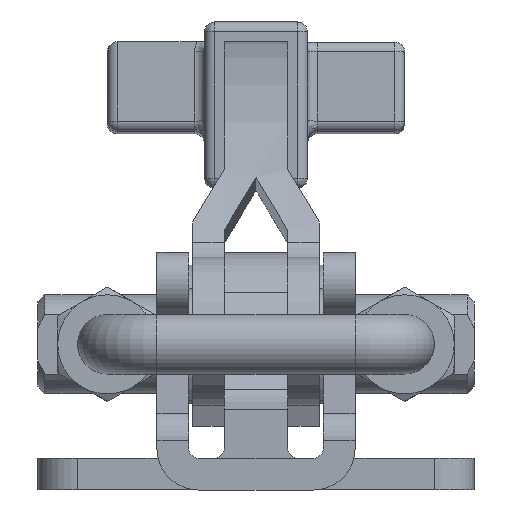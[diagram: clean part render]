
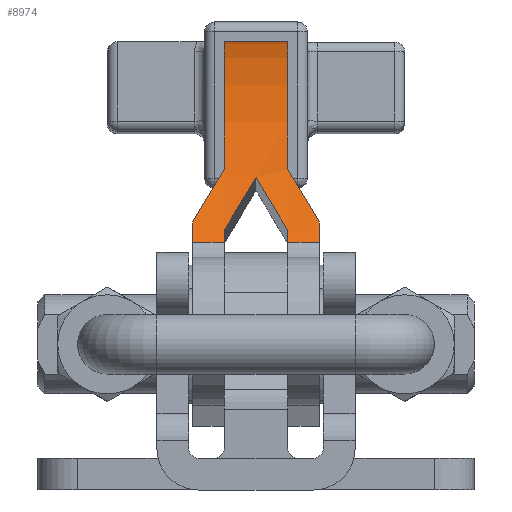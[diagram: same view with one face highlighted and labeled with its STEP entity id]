
A CAD part, front view. The second image highlights one B-rep face of the part: STEP entity #8974.
In plain terms, the highlighted cylindrical face has radius 50 mm (diameter 100 mm), a partial arc.
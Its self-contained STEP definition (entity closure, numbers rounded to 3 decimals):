
#8280=CARTESIAN_POINT('Control Point',(-3.2,23.271,26.219)) ;
#8281=CARTESIAN_POINT('Control Point',(-2.072,24.753,28.105)) ;
#8282=CARTESIAN_POINT('Control Point',(-1.001,26.371,29.884)) ;
#8283=CARTESIAN_POINT('Control Point',(0.,28.109,31.538)) ;
#8284=CARTESIAN_POINT('Cartesian Point',(-3.2,23.271,26.219)) ;
#8286=CARTESIAN_POINT('Cartesian Point',(0.,28.109,31.538)) ;
#8329=CARTESIAN_POINT('Axis2P3D Location',(-3.2,62.585,-4.674)) ;
#8333=CARTESIAN_POINT('Cartesian Point',(-3.2,22.335,24.989)) ;
#8428=CARTESIAN_POINT('Axis2P3D Location',(-6.4,62.585,-4.674)) ;
#8432=CARTESIAN_POINT('Cartesian Point',(-6.4,23.935,27.046)) ;
#8434=CARTESIAN_POINT('Cartesian Point',(-6.4,22.335,24.989)) ;
#8537=CARTESIAN_POINT('Control Point',(-6.4,23.935,27.046)) ;
#8538=CARTESIAN_POINT('Control Point',(-5.268,25.486,28.936)) ;
#8539=CARTESIAN_POINT('Control Point',(-4.197,27.177,30.712)) ;
#8540=CARTESIAN_POINT('Control Point',(-3.2,28.988,32.355)) ;
#8541=CARTESIAN_POINT('Cartesian Point',(-3.2,28.988,32.355)) ;
#8577=CARTESIAN_POINT('Axis2P3D Location',(-3.2,62.585,-4.674)) ;
#8581=CARTESIAN_POINT('Cartesian Point',(-3.2,64.949,45.27)) ;
#8616=CARTESIAN_POINT('Axis2P3D Location',(3.2,62.585,-4.674)) ;
#8620=CARTESIAN_POINT('Cartesian Point',(3.2,64.949,45.27)) ;
#8622=CARTESIAN_POINT('Cartesian Point',(3.2,28.988,32.355)) ;
#8665=CARTESIAN_POINT('Control Point',(6.4,23.935,27.046)) ;
#8666=CARTESIAN_POINT('Control Point',(5.268,25.486,28.936)) ;
#8667=CARTESIAN_POINT('Control Point',(4.197,27.177,30.712)) ;
#8668=CARTESIAN_POINT('Control Point',(3.2,28.988,32.355)) ;
#8669=CARTESIAN_POINT('Cartesian Point',(6.4,23.935,27.046)) ;
#8705=CARTESIAN_POINT('Axis2P3D Location',(6.4,62.585,-4.674)) ;
#8709=CARTESIAN_POINT('Cartesian Point',(6.4,22.335,24.989)) ;
#8804=CARTESIAN_POINT('Axis2P3D Location',(3.2,62.585,-4.674)) ;
#8808=CARTESIAN_POINT('Cartesian Point',(3.2,23.271,26.219)) ;
#8810=CARTESIAN_POINT('Cartesian Point',(3.2,22.335,24.989)) ;
#8913=CARTESIAN_POINT('Control Point',(3.2,23.271,26.219)) ;
#8914=CARTESIAN_POINT('Control Point',(2.072,24.753,28.105)) ;
#8915=CARTESIAN_POINT('Control Point',(1.001,26.371,29.884)) ;
#8916=CARTESIAN_POINT('Control Point',(0.,28.109,31.538)) ;
#8939=CARTESIAN_POINT('Axis2P3D Location',(7.,62.585,-4.674)) ;
#8944=CARTESIAN_POINT('Line Origine',(0.,22.335,24.989)) ;
#8949=CARTESIAN_POINT('Line Origine',(0.,64.949,45.27)) ;
#8954=CARTESIAN_POINT('Line Origine',(0.,22.335,24.989)) ;
#8330=DIRECTION('Axis2P3D Direction',(1.,0.,0.)) ;
#8429=DIRECTION('Axis2P3D Direction',(1.,0.,0.)) ;
#8578=DIRECTION('Axis2P3D Direction',(1.,0.,0.)) ;
#8617=DIRECTION('Axis2P3D Direction',(1.,0.,0.)) ;
#8706=DIRECTION('Axis2P3D Direction',(1.,0.,0.)) ;
#8805=DIRECTION('Axis2P3D Direction',(1.,0.,0.)) ;
#8940=DIRECTION('Axis2P3D Direction',(-1.,0.,0.)) ;
#8941=DIRECTION('Axis2P3D XDirection',(0.,-0.805,0.593)) ;
#8945=DIRECTION('Vector Direction',(-1.,0.,0.)) ;
#8950=DIRECTION('Vector Direction',(-1.,0.,0.)) ;
#8955=DIRECTION('Vector Direction',(-1.,0.,0.)) ;
#8331=AXIS2_PLACEMENT_3D('Circle Axis2P3D',#8329,#8330,$) ;
#8430=AXIS2_PLACEMENT_3D('Circle Axis2P3D',#8428,#8429,$) ;
#8579=AXIS2_PLACEMENT_3D('Circle Axis2P3D',#8577,#8578,$) ;
#8618=AXIS2_PLACEMENT_3D('Circle Axis2P3D',#8616,#8617,$) ;
#8707=AXIS2_PLACEMENT_3D('Circle Axis2P3D',#8705,#8706,$) ;
#8806=AXIS2_PLACEMENT_3D('Circle Axis2P3D',#8804,#8805,$) ;
#8942=AXIS2_PLACEMENT_3D('Cylinder Axis2P3D',#8939,#8940,#8941) ;
#8960=ORIENTED_EDGE('Oriented Edge',*,*,#8288,.T.) ;
#8961=ORIENTED_EDGE('Oriented Edge',*,*,#8917,.F.) ;
#8962=ORIENTED_EDGE('Oriented Edge',*,*,#8812,.T.) ;
#8963=ORIENTED_EDGE('Oriented Edge',*,*,#8948,.F.) ;
#8964=ORIENTED_EDGE('Oriented Edge',*,*,#8711,.F.) ;
#8965=ORIENTED_EDGE('Oriented Edge',*,*,#8671,.T.) ;
#8966=ORIENTED_EDGE('Oriented Edge',*,*,#8624,.F.) ;
#8967=ORIENTED_EDGE('Oriented Edge',*,*,#8953,.T.) ;
#8968=ORIENTED_EDGE('Oriented Edge',*,*,#8583,.T.) ;
#8969=ORIENTED_EDGE('Oriented Edge',*,*,#8543,.F.) ;
#8970=ORIENTED_EDGE('Oriented Edge',*,*,#8436,.T.) ;
#8971=ORIENTED_EDGE('Oriented Edge',*,*,#8958,.F.) ;
#8972=ORIENTED_EDGE('Oriented Edge',*,*,#8335,.F.) ;
#8946=VECTOR('Line Direction',#8945,1.) ;
#8951=VECTOR('Line Direction',#8950,1.) ;
#8956=VECTOR('Line Direction',#8955,1.) ;
#8974=ADVANCED_FACE('',(#8973),#8943,.T.) ;
#8279=B_SPLINE_CURVE_WITH_KNOTS('BSpline Curve',3,(#8280,#8281,#8282,#8283),.UNSPECIFIED.,.F.,.U.,(4,4),(407.171,418.164),.UNSPECIFIED.) ;
#8536=B_SPLINE_CURVE_WITH_KNOTS('BSpline Curve',3,(#8537,#8538,#8539,#8540),.UNSPECIFIED.,.F.,.U.,(4,4),(408.791,419.997),.UNSPECIFIED.) ;
#8664=B_SPLINE_CURVE_WITH_KNOTS('BSpline Curve',3,(#8665,#8666,#8667,#8668),.UNSPECIFIED.,.F.,.U.,(4,4),(168.848,180.054),.UNSPECIFIED.) ;
#8912=B_SPLINE_CURVE_WITH_KNOTS('BSpline Curve',3,(#8913,#8914,#8915,#8916),.UNSPECIFIED.,.F.,.U.,(4,4),(167.228,178.221),.UNSPECIFIED.) ;
#8332=CIRCLE('generated circle',#8331,50.) ;
#8431=CIRCLE('generated circle',#8430,50.) ;
#8580=CIRCLE('generated circle',#8579,50.) ;
#8619=CIRCLE('generated circle',#8618,50.) ;
#8708=CIRCLE('generated circle',#8707,50.) ;
#8807=CIRCLE('generated circle',#8806,50.) ;
#8943=CYLINDRICAL_SURFACE('generated cylinder',#8942,50.) ;
#8288=EDGE_CURVE('',#8285,#8287,#8279,.T.) ;
#8335=EDGE_CURVE('',#8285,#8334,#8332,.T.) ;
#8436=EDGE_CURVE('',#8433,#8435,#8431,.T.) ;
#8543=EDGE_CURVE('',#8433,#8542,#8536,.T.) ;
#8583=EDGE_CURVE('',#8582,#8542,#8580,.T.) ;
#8624=EDGE_CURVE('',#8621,#8623,#8619,.T.) ;
#8671=EDGE_CURVE('',#8670,#8623,#8664,.T.) ;
#8711=EDGE_CURVE('',#8670,#8710,#8708,.T.) ;
#8812=EDGE_CURVE('',#8809,#8811,#8807,.T.) ;
#8917=EDGE_CURVE('',#8809,#8287,#8912,.T.) ;
#8948=EDGE_CURVE('',#8710,#8811,#8947,.T.) ;
#8953=EDGE_CURVE('',#8621,#8582,#8952,.T.) ;
#8958=EDGE_CURVE('',#8334,#8435,#8957,.T.) ;
#8959=EDGE_LOOP('Oriented Loop',(#8960,#8961,#8962,#8963,#8964,#8965,#8966,#8967,#8968,#8969,#8970,#8971,#8972)) ;
#8973=FACE_OUTER_BOUND('Face Bound',#8959,.T.) ;
#8947=LINE('Line',#8944,#8946) ;
#8952=LINE('Line',#8949,#8951) ;
#8957=LINE('Line',#8954,#8956) ;
#8285=VERTEX_POINT('Vertex Point',#8284) ;
#8287=VERTEX_POINT('Vertex Point',#8286) ;
#8334=VERTEX_POINT('Vertex Point',#8333) ;
#8433=VERTEX_POINT('Vertex Point',#8432) ;
#8435=VERTEX_POINT('Vertex Point',#8434) ;
#8542=VERTEX_POINT('Vertex Point',#8541) ;
#8582=VERTEX_POINT('Vertex Point',#8581) ;
#8621=VERTEX_POINT('Vertex Point',#8620) ;
#8623=VERTEX_POINT('Vertex Point',#8622) ;
#8670=VERTEX_POINT('Vertex Point',#8669) ;
#8710=VERTEX_POINT('Vertex Point',#8709) ;
#8809=VERTEX_POINT('Vertex Point',#8808) ;
#8811=VERTEX_POINT('Vertex Point',#8810) ;
